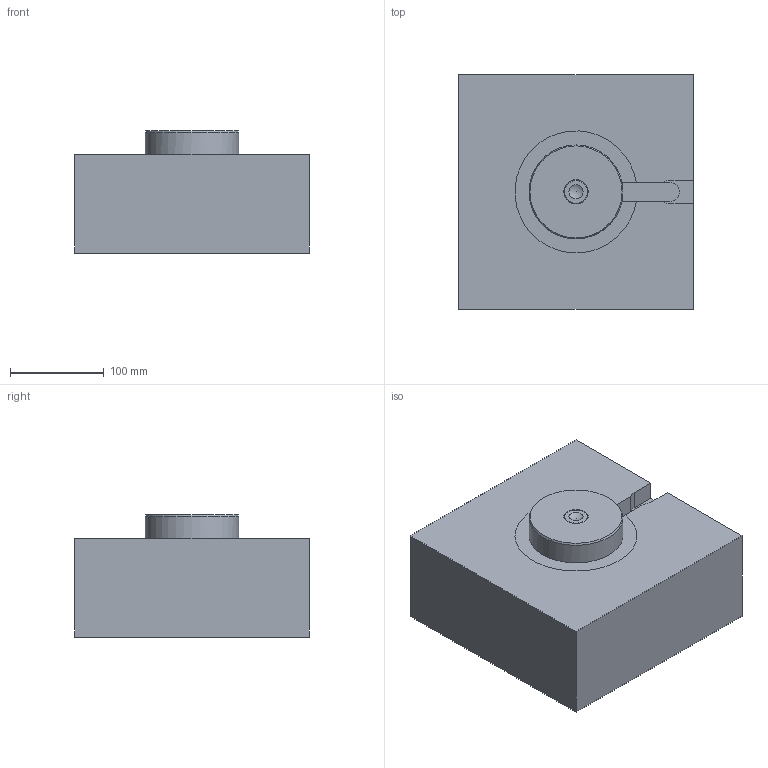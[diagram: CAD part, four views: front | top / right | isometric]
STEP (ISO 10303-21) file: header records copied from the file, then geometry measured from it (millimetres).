
FILE_DESCRIPTION( ( 'STEP AP214' ), '1' );
FILE_NAME( 'D:/PROIECTE_YUDO_2009/PROIECTE YUDO 3D/BLS/YUEU09-BLS18TLC060/YUEU09-BLS18TLC060.step', '2009-03-24T06:57:00', ( ' ' ), ( ' ' ), 'XStep 1.0', ' ', ' ' );
FILE_SCHEMA( ( 'automotive_design' ) );
Length unit declared in the file: millimetre
Products named in the file (5): 1; 2; 3; 4; 5
Bounding box: 250 x 250 x 130 mm (x, y, z)
Volume: 6652000.4 mm3; surface area: 312645.1 mm2
Topology: 5 solids, 5 shells, 96 faces, 195 edges, 121 vertices
Faces by surface type: plane 39, cylinder 31, cone 18, torus 5, bspline 2, sphere 1
Full cylindrical faces by diameter (mm): 7.8 x1, 8 x2, 8.8 x1, 10.4 x1, 12 x1, 12.8 x1, 14 x1, 18 x1, 18.08 x1, 21.134 x1, 22.9 x1, 25 x3, 27.2 x1, 32 x1, 33 x1, 37 x1, 40 x1, 53 x1, 54 x2, 100 x1
Entity records: 3114 total; most frequent: DIRECTION 422, CARTESIAN_POINT 416, ORIENTED_EDGE 280, AXIS2_PLACEMENT_3D 185, EDGE_LOOP 163, EDGE_CURVE 140, FACE_OUTER_BOUND 127, VERTEX_POINT 115
